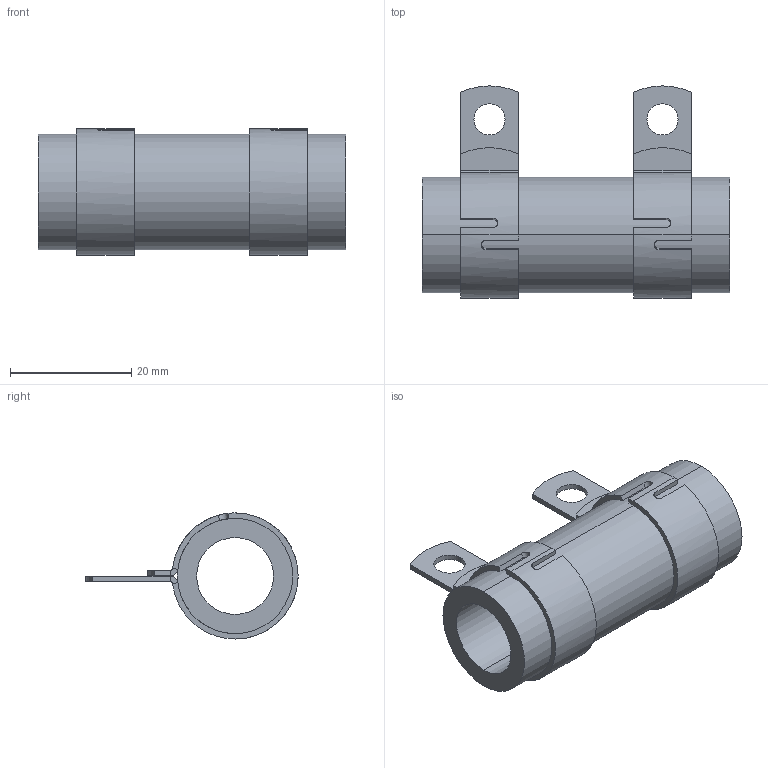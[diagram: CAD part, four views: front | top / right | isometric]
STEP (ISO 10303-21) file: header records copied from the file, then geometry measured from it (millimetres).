
FILE_DESCRIPTION (( 'STEP AP203' ), '1' );
FILE_NAME ('RBEF0050xxxxxKFB00.STEP', '2014-04-04T18:26:45', ( '' ), ( '' ), 'SwSTEP 2.0', 'SolidWorks 2012', '' );
FILE_SCHEMA (( 'CONFIG_CONTROL_DESIGN' ));
Length unit declared in the file: millimetre
Products named in the file (3): RBEF0050xxxxxKFB00; DAL15-160-XXX_DAL15-160-912-CLOSED; DAL013-04_DAL013-111
Assembly tree (3 placements, depth 2):
  RBEF0050xxxxxKFB00
    DAL013-04_DAL013-111
    DAL15-160-XXX_DAL15-160-912-CLOSED  x2
Bounding box: 50.8 x 35.06 x 20.83 mm (x, y, z)
Volume: 9322.4 mm3; surface area: 8642.6 mm2
Topology: 3 solids, 3 shells, 80 faces, 190 edges, 116 vertices
Faces by surface type: plane 42, cylinder 34, bspline 4
Entity records: 1706 total; most frequent: CARTESIAN_POINT 366, DIRECTION 229, ORIENTED_EDGE 202, EDGE_CURVE 101, AXIS2_PLACEMENT_3D 89, VERTEX_POINT 62, VECTOR 51, LINE 51
